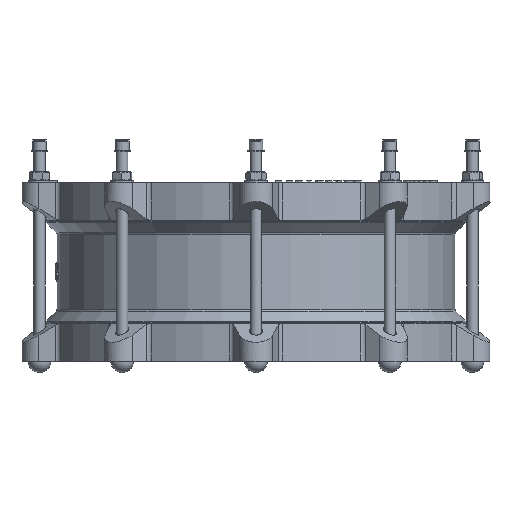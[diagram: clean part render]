
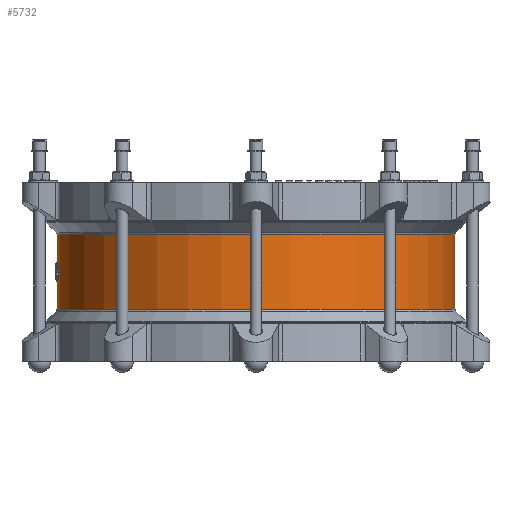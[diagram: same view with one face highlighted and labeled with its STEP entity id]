
A CAD part, left-side view. The second image highlights one B-rep face of the part: STEP entity #5732.
In plain terms, the highlighted cylindrical face has radius 243.5 mm (diameter 487 mm), a full revolution.
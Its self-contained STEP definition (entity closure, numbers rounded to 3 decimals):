
#5732=ADVANCED_FACE('',(#10829,#10831),#10833,.T.);
#10829=FACE_OUTER_BOUND('',#10830,.T.);
#10830=EDGE_LOOP('',(#15793));
#10831=FACE_OUTER_BOUND('',#10832,.T.);
#10832=EDGE_LOOP('',(#15794));
#10833=CYLINDRICAL_SURFACE('',#10834,243.5);
#10834=AXIS2_PLACEMENT_3D('',#10835,#10836,#10837);
#10835=CARTESIAN_POINT('',(0.,0.,47.257));
#10836=DIRECTION('',(0.,0.,-1.));
#10837=DIRECTION('',(0.,1.,0.));
#15793=ORIENTED_EDGE('',*,*,#18018,.T.);
#15794=ORIENTED_EDGE('',*,*,#18019,.F.);
#18018=EDGE_CURVE('',#21075,#21075,#21076,.T.);
#18019=EDGE_CURVE('',#21077,#21077,#21078,.T.);
#21075=VERTEX_POINT('',#33373);
#21076=CIRCLE('',#33374,243.5);
#21077=VERTEX_POINT('',#33378);
#21078=CIRCLE('',#33379,243.5);
#33373=CARTESIAN_POINT('',(0.,243.5,46.015));
#33374=AXIS2_PLACEMENT_3D('',#33375,#33376,#33377);
#33375=CARTESIAN_POINT('',(0.,0.,46.015));
#33376=DIRECTION('',(0.,0.,-1.));
#33377=DIRECTION('',(0.,1.,0.));
#33378=CARTESIAN_POINT('',(0.,243.5,-46.015));
#33379=AXIS2_PLACEMENT_3D('',#33380,#33381,#33382);
#33380=CARTESIAN_POINT('',(0.,0.,-46.015));
#33381=DIRECTION('',(0.,0.,-1.));
#33382=DIRECTION('',(0.,1.,0.));
